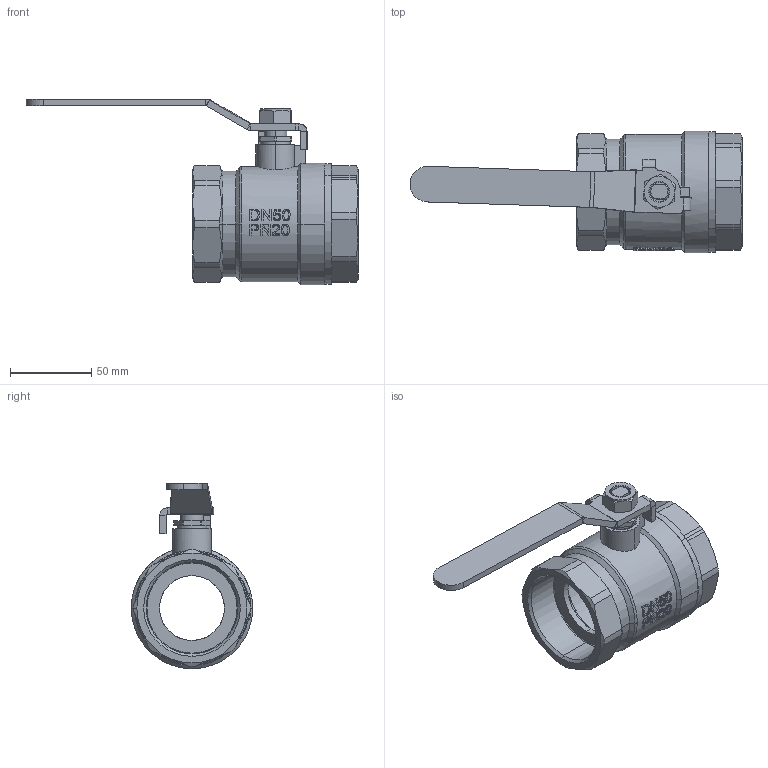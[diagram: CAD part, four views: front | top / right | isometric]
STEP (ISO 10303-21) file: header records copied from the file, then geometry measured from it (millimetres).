
FILE_DESCRIPTION(/* description */ (''),/* implementation_level */ '2;1');
FILE_NAME(/* name */ '5073.stp',/* time_stamp */ '2022-05-12T16:27:01+08:00',/* author */ (''),/* organization */ (''),/* preprocessor_version */ 'ST-DEVELOPER v11',/* originating_system */ 'SIEMENS PLM Software NX 7.5',/* authorisation */ '');
FILE_SCHEMA (('CONFIG_CONTROL_DESIGN'));
Products named in the file (1): 5073
Bounding box: 204.9 x 75 x 114.54 mm (x, y, z)
Volume: 152030.5 mm3; surface area: 77916.8 mm2
Topology: 6 solids, 6 shells, 424 faces, 1037 edges, 651 vertices
Faces by surface type: plane 159, cylinder 111, cone 73, bspline 67, torus 12, sphere 2
Full cylindrical faces by diameter (mm): 71 x1
Entity records: 39640 total; most frequent: CARTESIAN_POINT 30041, ORIENTED_EDGE 2072, DIRECTION 1820, EDGE_CURVE 1036, AXIS2_PLACEMENT_3D 706, VERTEX_POINT 651, EDGE_LOOP 463, ADVANCED_FACE 424
